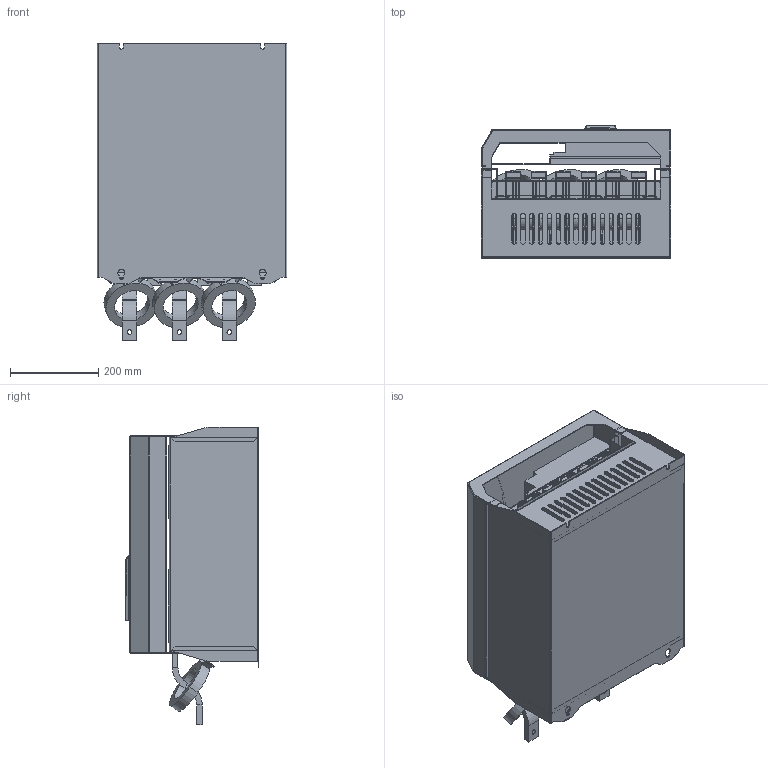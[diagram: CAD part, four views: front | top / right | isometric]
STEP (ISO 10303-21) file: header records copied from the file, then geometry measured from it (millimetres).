
FILE_DESCRIPTION (( 'STEP AP214' ), '1' );
FILE_NAME ('EMX3 G4C General Assembly, Simplified, Top-Top, 21NOV12.STEP', '2012-11-27T00:55:59', ( '' ), ( '' ), 'SwSTEP 2.0', 'SolidWorks 2012', '' );
FILE_SCHEMA (( 'AUTOMOTIVE_DESIGN' ));
Length unit declared in the file: millimetre
Products named in the file (1): EMX3 G4C General Assembly, Simplified, Top-Top, 21NOV12
Bounding box: 430.2 x 302.1 x 674.13 mm (x, y, z)
Volume: 14410998.1 mm3; surface area: 6509302.2 mm2
Topology: 63 solids, 63 shells, 4100 faces, 10610 edges, 6890 vertices
Faces by surface type: plane 2373, cylinder 794, bspline 733, cone 110, sphere 45, torus 45
Entity records: 189452 total; most frequent: CARTESIAN_POINT 46821, ORIENTED_EDGE 21186, DIRECTION 17729, EDGE_CURVE 10593, LINE 7005, VECTOR 7005, VERTEX_POINT 6890, AXIS2_PLACEMENT_3D 5362
